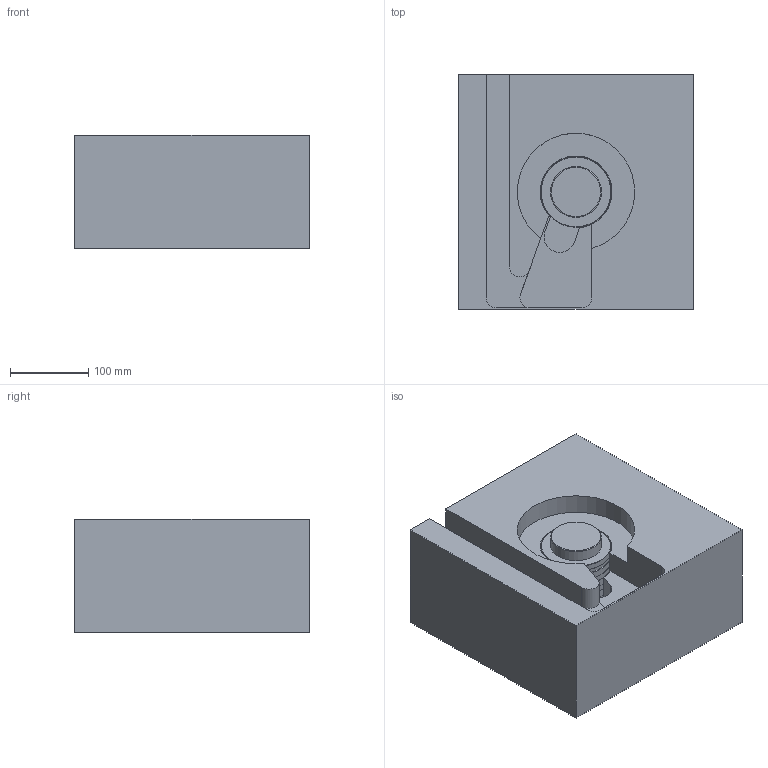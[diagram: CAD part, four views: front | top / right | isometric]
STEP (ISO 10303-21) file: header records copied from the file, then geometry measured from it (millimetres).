
FILE_DESCRIPTION( ( 'STEP AP214' ), '1' );
FILE_NAME( 'S:/PROIECTE_YUDO_2009/PROIECTE YUDO 3D/SAS/YUEU09-SAS22VV119_2/YUEU09-SAS22VV119.step', '2009-06-29T10:37:59', ( ' ' ), ( ' ' ), 'XStep 1.0', ' ', ' ' );
FILE_SCHEMA( ( 'automotive_design' ) );
Length unit declared in the file: millimetre
Products named in the file (5): 1; 2; 3; 4; 5
Bounding box: 300 x 300 x 145.3 mm (x, y, z)
Volume: 11862816.9 mm3; surface area: 469166.1 mm2
Topology: 5 solids, 5 shells, 115 faces, 252 edges, 160 vertices
Faces by surface type: cylinder 47, plane 45, cone 19, torus 4
Full cylindrical faces by diameter (mm): 3.4 x1, 4 x1, 6 x4, 13 x1, 17 x1, 21 x1, 22 x3, 22.1 x1, 34 x1, 37 x1, 65 x1, 89 x4, 90 x5
Entity records: 4256 total; most frequent: CARTESIAN_POINT 926, DIRECTION 494, ORIENTED_EDGE 398, AXIS2_PLACEMENT_3D 204, EDGE_CURVE 199, EDGE_LOOP 183, VERTEX_POINT 154, FACE_OUTER_BOUND 144
